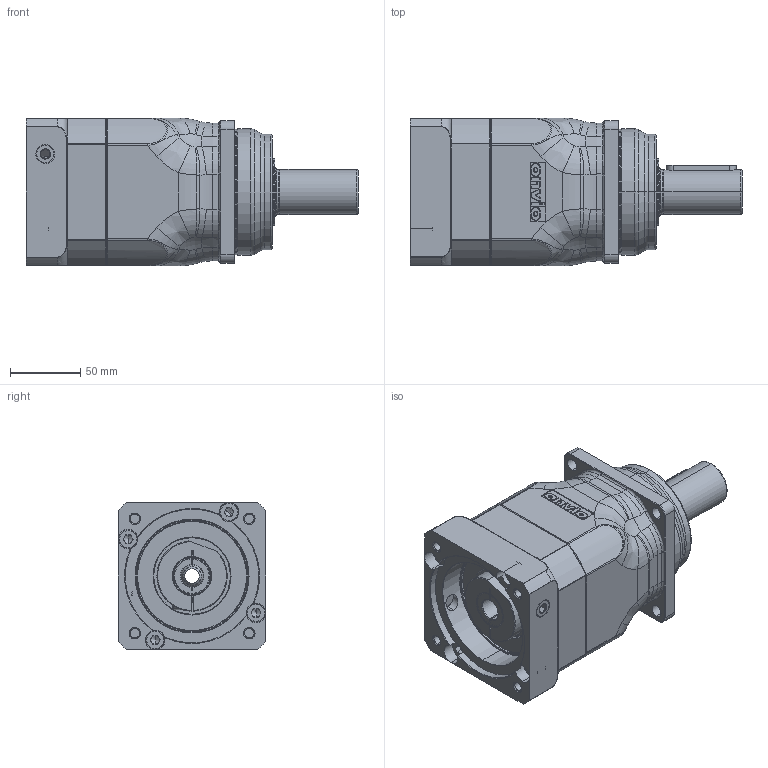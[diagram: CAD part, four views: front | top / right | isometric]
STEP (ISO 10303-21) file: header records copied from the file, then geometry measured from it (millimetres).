
FILE_DESCRIPTION (( 'STEP AP214' ), '1' );
FILE_NAME ('AH-030-RRR-FFF-MMM-S-LL-XXX-AXX-0000.STEP', '2019-10-11T20:27:34', ( '' ), ( '' ), 'SwSTEP 2.0', 'SolidWorks 2019', '' );
FILE_SCHEMA (( 'AUTOMOTIVE_DESIGN' ));
Length unit declared in the file: millimetre
Products named in the file (1): AH-030-RRR-FFF-MMM-S-LL-XXX-AXX-0000
Bounding box: 236 x 105.08 x 105 mm (x, y, z)
Surface area: 123772.7 mm2 (no closed solid volume)
Topology: 0 solids, 87 shells, 874 faces, 3610 edges, 2779 vertices
Faces by surface type: cylinder 280, plane 225, torus 173, cone 112, bspline 84
Entity records: 57497 total; most frequent: CARTESIAN_POINT 20060, DIRECTION 5413, ORIENTED_EDGE 5134, EDGE_CURVE 3596, VERTEX_POINT 2779, AXIS2_PLACEMENT_3D 1955, LINE 1503, VECTOR 1503
